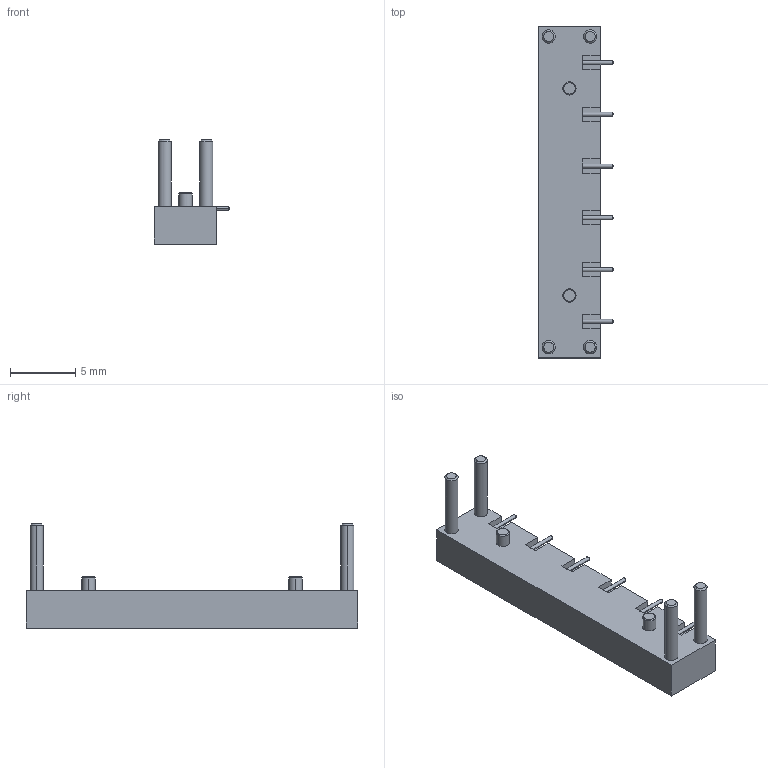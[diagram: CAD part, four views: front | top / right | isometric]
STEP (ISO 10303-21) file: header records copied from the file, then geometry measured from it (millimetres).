
FILE_DESCRIPTION (( 'STEP AP203' ), '1' );
FILE_NAME ('8868000G91P-029st.STEP', '2016-11-04T14:40:11', ( 'klewis' ), ( '' ), 'SwSTEP 2.0', 'SolidWorks 2014', '' );
FILE_SCHEMA (( 'CONFIG_CONTROL_DESIGN' ));
Length unit declared in the file: inch
Products named in the file (1): 8868000G91P-029st
Bounding box: 5.75 x 25.4 x 7.98 mm (x, y, z)
Volume: 303.2 mm3; surface area: 601 mm2
Topology: 1 solids, 1 shells, 174 faces, 396 edges, 236 vertices
Faces by surface type: cylinder 72, cone 48, plane 48, bspline 6
Entity records: 4933 total; most frequent: DIRECTION 902, CARTESIAN_POINT 885, ORIENTED_EDGE 768, EDGE_CURVE 384, AXIS2_PLACEMENT_3D 349, VERTEX_POINT 236, LINE 204, VECTOR 204
